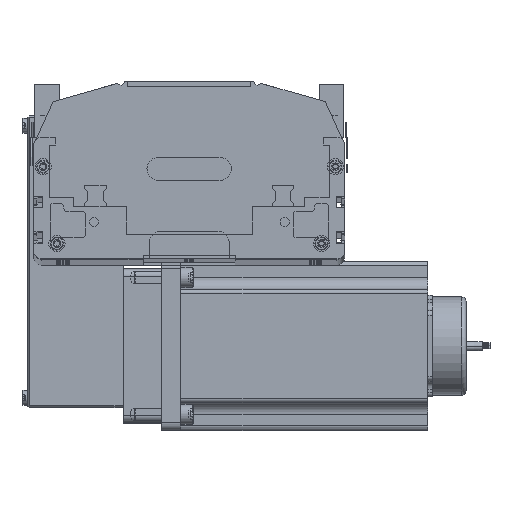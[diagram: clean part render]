
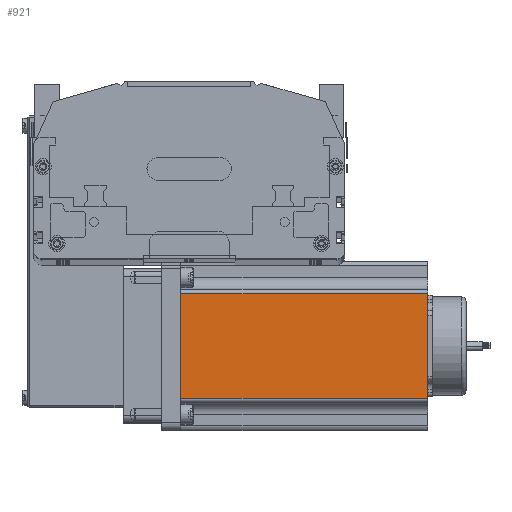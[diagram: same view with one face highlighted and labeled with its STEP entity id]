
A CAD part, top view. The second image highlights one B-rep face of the part: STEP entity #921.
In plain terms, the highlighted planar face has unit normal (0, 0, 1) as drawn and (0, -1, 0) by its records, which use the part's own axes.
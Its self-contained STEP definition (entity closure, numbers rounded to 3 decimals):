
#850 = EDGE_LOOP ( 'NONE', ( #923, #928, #927, #861 ) ) ;
#856 = EDGE_CURVE ( 'NONE', #858, #922, #8892, .T. ) ;
#858 = VERTEX_POINT ( 'NONE', #8871 ) ;
#861 = ORIENTED_EDGE ( 'NONE', *, *, #931, .T. ) ;
#919 = VERTEX_POINT ( 'NONE', #9290 ) ;
#920 = VERTEX_POINT ( 'NONE', #9302 ) ;
#921 = ADVANCED_FACE ( 'NONE', ( #9406 ), #9404, .F. ) ;
#922 = VERTEX_POINT ( 'NONE', #9286 ) ;
#923 = ORIENTED_EDGE ( 'NONE', *, *, #856, .T. ) ;
#924 = EDGE_CURVE ( 'NONE', #922, #919, #9287, .T. ) ;
#927 = ORIENTED_EDGE ( 'NONE', *, *, #929, .F. ) ;
#928 = ORIENTED_EDGE ( 'NONE', *, *, #924, .T. ) ;
#929 = EDGE_CURVE ( 'NONE', #920, #919, #9381, .T. ) ;
#931 = EDGE_CURVE ( 'NONE', #920, #858, #9371, .T. ) ;
#8871 = CARTESIAN_POINT ( 'NONE',  ( 21.048, 0., 0. ) ) ;
#8891 = CARTESIAN_POINT ( 'NONE',  ( 0., 0., 0. ) ) ;
#8892 = LINE ( 'NONE', #8891, #8925 ) ;
#8924 = DIRECTION ( 'NONE',  ( 1., 0., 0. ) ) ;
#8925 = VECTOR ( 'NONE', #8924, 1000. ) ;
#9286 = CARTESIAN_POINT ( 'NONE',  ( 88.952, 0., 0. ) ) ;
#9287 = LINE ( 'NONE', #9388, #9386 ) ;
#9290 = CARTESIAN_POINT ( 'NONE',  ( 88.952, 0., 160.5 ) ) ;
#9302 = CARTESIAN_POINT ( 'NONE',  ( 21.048, 0., 160.5 ) ) ;
#9305 = AXIS2_PLACEMENT_3D ( 'NONE', #9340, #9409, #9394 ) ;
#9340 = CARTESIAN_POINT ( 'NONE',  ( 0., 0., 160.5 ) ) ;
#9364 = DIRECTION ( 'NONE',  ( 0., 0., -1. ) ) ;
#9365 = VECTOR ( 'NONE', #9364, 1000. ) ;
#9367 = CARTESIAN_POINT ( 'NONE',  ( 21.048, 0., 160.5 ) ) ;
#9371 = LINE ( 'NONE', #9367, #9365 ) ;
#9374 = DIRECTION ( 'NONE',  ( 1., 0., 0. ) ) ;
#9379 = VECTOR ( 'NONE', #9374, 1000. ) ;
#9380 = CARTESIAN_POINT ( 'NONE',  ( 0., 0., 160.5 ) ) ;
#9381 = LINE ( 'NONE', #9380, #9379 ) ;
#9385 = DIRECTION ( 'NONE',  ( 0., 0., 1. ) ) ;
#9386 = VECTOR ( 'NONE', #9385, 1000. ) ;
#9388 = CARTESIAN_POINT ( 'NONE',  ( 88.952, 0., 160.5 ) ) ;
#9394 = DIRECTION ( 'NONE',  ( 0., 0., 1. ) ) ;
#9404 = PLANE ( 'NONE',  #9305 ) ;
#9406 = FACE_OUTER_BOUND ( 'NONE', #850, .T. ) ;
#9409 = DIRECTION ( 'NONE',  ( 0., 1., 0. ) ) ;
